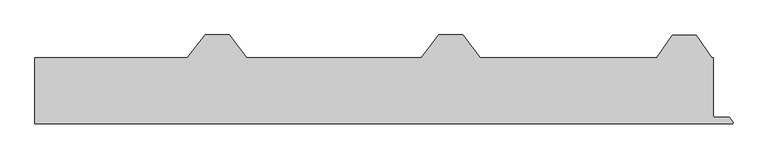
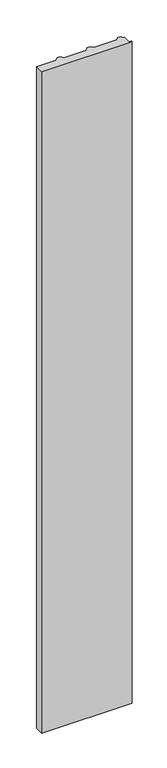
"""IFC4 building model written with IfcOpenShell, lengths in millimetres: plate geometry, Europanels_PolDeck TD T_Vt : PolDeck TD T 100/135."""

from ifc_helpers import new_model, si_unit, frame, origin, place, context, project, spatial, polyline, circle_curve, source, transform, mapped, element, save
from ifc_brep_helpers import plane_surface, cylinder_surface, revolved_surface, advanced_brep


def plate_59d68982(model_context):
    return source(origin(), model_context, "Body", "AdvancedBrep", [
        advanced_brep(
        [(-222.5813316, 50.0, 8180.0), (-222.5813316, 50.0, 0.0), (-454.3371719, 50.0, 0.0), (-454.3371719, 50.0, 8180.0), (-195.6147806, 85.0, 8180.0), (-195.6147806, 85.0, 0.0), (-132.4186684, 50.0, 8180.0), (-132.4186684, 50.0, 0.0), (-159.3852194, 85.0, 0.0), (-159.3852194, 85.0, 8180.0), (132.4186684, 50.0, 8180.0), (132.4186684, 50.0, 0.0), (159.3852194, 85.0, 8180.0), (159.3852194, 85.0, 0.0), (222.5813316, 50.0, 8180.0), (222.5813316, 50.0, 0.0), (195.6147806, 85.0, 0.0), (195.6147806, 85.0, 8180.0), (490.7979812, 50.0, 8180.0), (490.7979812, 50.0, 0.0), (514.338799, 84.7, 8180.0), (514.338799, 84.7, 0.0), (550.6325074, 84.7, 8180.0), (550.6325074, 84.7, 0.0), (574.2316867, 50.0, 8180.0), (574.2316867, 50.0, 0.0), (576.6627847, 50.0, 8180.0), (576.6627847, 50.0, 0.0), (-454.3371719, -50.0, 8180.0), (604.7628281, -50.0, 8180.0), (606.2516728, -46.9196011, 8180.0), (600.7656048, -39.9999883, 8180.0), (578.1627902, -40.0, 8180.0), (576.6627894, -38.5, 8180.0), (576.6627894, -38.5, 0.0), (578.1627902, -40.0, 0.0), (600.7656048, -39.9999883, 0.0), (606.2516728, -46.9196011, 0.0), (604.7628281, -50.0, 0.0), (-454.3371719, -50.0, 0.0)],
        [
            (0, 1),
            (1, 2),
            (2, 3),
            (3, 0),
            (0, 4),
            (4, 5),
            (5, 1),
            (6, 7),
            (7, 8),
            (8, 9),
            (9, 6),
            (6, 10),
            (10, 11),
            (11, 7),
            (10, 12),
            (12, 13),
            (13, 11),
            (14, 15),
            (15, 16),
            (16, 17),
            (17, 14),
            (14, 18),
            (18, 19),
            (19, 15),
            (18, 20),
            (20, 21),
            (21, 19),
            (20, 22),
            (22, 23),
            (23, 21),
            (22, 24),
            (24, 25),
            (25, 23),
            (24, 26),
            (26, 27),
            (27, 25),
            (28, 29),
            (29, 30, circle_curve(frame((604.7628281, -48.1, 8180.0), z_axis=(0.0, 0.0, 1.0), x_axis=(1.0, 0.0, 0.0)), 1.9)),
            (30, 31),
            (31, 32),
            (32, 33, circle_curve(frame((578.1627894, -38.5, 8180.0), z_axis=(0.0, 0.0, -1.0), x_axis=(1.0, 0.0, 0.0)), 1.5)),
            (33, 26),
            (17, 12),
            (9, 4),
            (3, 28),
            (34, 35, circle_curve(frame((578.1627894, -38.5, 0.0), z_axis=(0.0, 0.0, 1.0), x_axis=(1.0, 0.0, 0.0)), 1.5)),
            (35, 36),
            (36, 37),
            (37, 38, circle_curve(frame((604.7628281, -48.1, 0.0), z_axis=(0.0, 0.0, -1.0), x_axis=(1.0, 0.0, 0.0)), 1.9)),
            (38, 39),
            (39, 2),
            (5, 8),
            (13, 16),
            (27, 34),
            (28, 39),
            (38, 29),
            (37, 30),
            (36, 31),
            (35, 32),
            (34, 33),
        ],
        [
            plane_surface(frame((-486.7507581, 50.0, 8180.0), z_axis=(0.0, 1.0, 0.0), x_axis=(0.0, 0.0, -1.0))),
            plane_surface(frame((-222.5813316, 50.0, 8180.0), z_axis=(-0.7921482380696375, 0.6103287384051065, 0.0), x_axis=(0.0, 0.0, -1.0))),
            plane_surface(frame((-159.3852194, 85.0, 8180.0), z_axis=(0.7921482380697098, 0.6103287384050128, 0.0), x_axis=(0.0, 0.0, -1.0))),
            plane_surface(frame((-132.4186684, 50.0, 8180.0), z_axis=(0.0, 1.0, 0.0), x_axis=(0.0, 0.0, -1.0))),
            plane_surface(frame((132.4186684, 50.0, 8180.0), z_axis=(-0.7921482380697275, 0.6103287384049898, 0.0), x_axis=(0.0, 0.0, -1.0))),
            plane_surface(frame((195.6147806, 85.0, 8180.0), z_axis=(0.7921482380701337, 0.6103287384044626, 0.0), x_axis=(0.0, 0.0, -1.0))),
            plane_surface(frame((222.5813316, 50.0, 8180.0), z_axis=(0.0, 1.0, 0.0), x_axis=(0.0, 0.0, -1.0))),
            plane_surface(frame((490.7979812, 50.0, 8180.0), z_axis=(-0.8275379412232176, 0.561409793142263, 0.0), x_axis=(0.0, 0.0, -1.0))),
            plane_surface(frame((514.338799, 84.7, 8180.0), z_axis=(0.0, 1.0, 0.0), x_axis=(0.0, 0.0, -1.0))),
            plane_surface(frame((550.6325074, 84.7, 8180.0), z_axis=(0.8268912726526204, 0.5623618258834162, 0.0), x_axis=(0.0, 0.0, -1.0))),
            plane_surface(frame((574.2316867, 50.0, 8180.0), z_axis=(0.0, 1.0, 0.0), x_axis=(0.0, 0.0, -1.0))),
            plane_surface(frame((604.7628281, -50.0, 8180.0), z_axis=(0.0, 0.0, 1.0), x_axis=(1.0, 0.0, 0.0))),
            plane_surface(frame((604.7628281, -50.0, 0.0), z_axis=(0.0, 0.0, -1.0), x_axis=(-1.0, 0.0, 0.0))),
            plane_surface(frame((-454.3371719, -50.0, 8180.0), z_axis=(0.0, -1.0, 0.0), x_axis=(0.0, 0.0, -1.0))),
            cylinder_surface(frame((604.7628281, -48.1, 0.0), z_axis=(0.0, 0.0, 1.0), x_axis=(1.0, 0.0, 0.0)), 1.9),
            plane_surface(frame((606.2516728, -46.9196011, 8180.0), z_axis=(0.7836024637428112, 0.6212625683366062, 0.0), x_axis=(0.0, 0.0, -1.0))),
            plane_surface(frame((600.7656048, -39.9999883, 8180.0), z_axis=(-5.177725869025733e-07, 0.999999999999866, 0.0), x_axis=(0.0, 0.0, -1.0))),
            revolved_surface(polyline([(579.6627894, -38.5, 0.0), (579.6627894, -38.5, 8180.0)]), (578.1627894, -38.5, 0.0), (0.0, 0.0, -1.0)),
            plane_surface(frame((576.6627847, -38.5, 8180.0), z_axis=(1.0, 0.0, 0.0), x_axis=(0.0, 0.0, -1.0))),
            plane_surface(frame((576.6627847, 85.0, 8180.0), z_axis=(0.0, 1.0, 0.0), x_axis=(0.0, 0.0, -1.0))),
            plane_surface(frame((-454.3371719, 85.0, 8180.0), z_axis=(-1.0, 0.0, 0.0), x_axis=(0.0, 0.0, -1.0))),
        ],
        [
            (0, [[1, 2, 3, 4]]),
            (1, [[-1, 5, 6, 7]]),
            (2, [[8, 9, 10, 11]]),
            (3, [[-8, 12, 13, 14]]),
            (4, [[-13, 15, 16, 17]]),
            (5, [[18, 19, 20, 21]]),
            (6, [[-18, 22, 23, 24]]),
            (7, [[-23, 25, 26, 27]]),
            (8, [[-26, 28, 29, 30]]),
            (9, [[-29, 31, 32, 33]]),
            (10, [[-32, 34, 35, 36]]),
            (11, [[37, 38, 39, 40, 41, 42, -34, -31, -28, -25, -22, -21, 43, -15, -12, -11, 44, -5, -4, 45]]),
            (12, [[46, 47, 48, 49, 50, 51, -2, -7, 52, -9, -14, -17, 53, -19, -24, -27, -30, -33, -36, 54]]),
            (13, [[-37, 55, -50, 56]]),
            (14, [[-38, -56, -49, 57]]),
            (15, [[-39, -57, -48, 58]]),
            (16, [[-40, -58, -47, 59]]),
            (17, [[-41, -59, -46, 60]]),
            (18, [[-60, -54, -35, -42]]),
            (19, [[-43, -20, -53, -16]]),
            (19, [[-44, -10, -52, -6]]),
            (20, [[-55, -45, -3, -51]]),
        ],
    ),
    ])


if __name__ == "__main__":
    model = new_model("IFC4")
    model_context = context("Model", 3, world=origin())
    ifc_project = project(units=[si_unit("LENGTHUNIT", "METRE", prefix="MILLI")], contexts=[model_context])
    site = spatial("IfcSite", under=ifc_project)
    building = spatial("IfcBuilding", under=site)
    placement = place(None, origin())
    plate_shape = plate_59d68982(model_context)
    element("IfcPlate", 1, ObjectType="Europanels_PolDeck TD T_Vt : PolDeck TD T 100/135", at=placement, inside=building, context=model_context, shape_type="MappedRepresentation", body=[
        mapped(plate_shape, transform((0.0, 0.0, 0.0), x_axis=(1.0, 0.0, 0.0), y_axis=(0.0, 1.0, 0.0), z_axis=(0.0, 0.0, 1.0))),
    ])
    save(model, "model.ifc")
